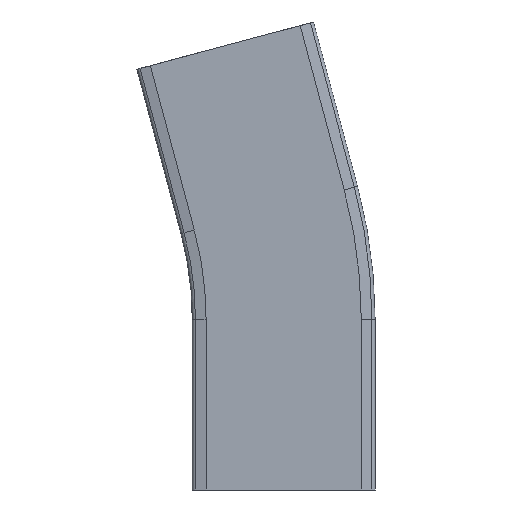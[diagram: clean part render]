
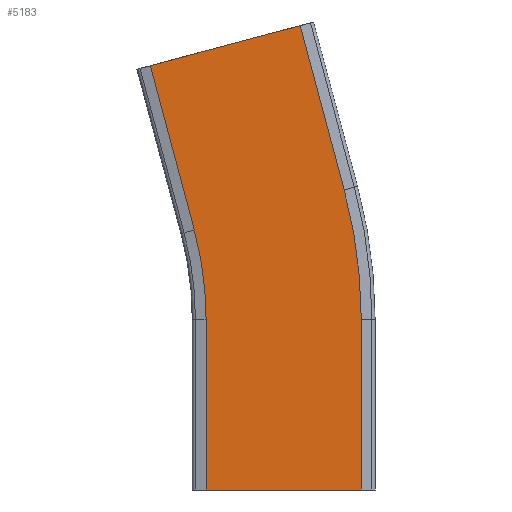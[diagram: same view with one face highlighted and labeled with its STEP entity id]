
A CAD part, front view. The second image highlights one B-rep face of the part: STEP entity #5183.
In plain terms, the highlighted planar face has unit normal (0, -1, 0).
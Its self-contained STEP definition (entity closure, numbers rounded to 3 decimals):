
#4773=CARTESIAN_POINT('',(36.5,-11.,0.0));
#4774=VERTEX_POINT('',#4773);
#4781=CARTESIAN_POINT('',(-36.5,-11.,0.0));
#4782=VERTEX_POINT('',#4781);
#4783=CARTESIAN_POINT('',(-36.5,-11.,0.0));
#4784=DIRECTION('',(1.0,0.0,0.0));
#4785=VECTOR('',#4784,73.);
#4786=LINE('',#4783,#4785);
#4787=EDGE_CURVE('',#4782,#4774,#4786,.T.);
#4813=CARTESIAN_POINT('',(-36.5,-11.,80.0));
#4814=VERTEX_POINT('',#4813);
#4828=CARTESIAN_POINT('',(-36.5,-11.,0.0));
#4829=DIRECTION('',(0.0,0.0,1.0));
#4830=VECTOR('',#4829,80.0);
#4831=LINE('',#4828,#4830);
#4832=EDGE_CURVE('',#4782,#4814,#4831,.T.);
#4842=CARTESIAN_POINT('',(36.5,-11.,80.0));
#4843=VERTEX_POINT('',#4842);
#4852=CARTESIAN_POINT('',(36.5,-11.,0.0));
#4853=DIRECTION('',(0.0,0.0,1.0));
#4854=VECTOR('',#4853,80.0);
#4855=LINE('',#4852,#4854);
#4856=EDGE_CURVE('',#4774,#4843,#4855,.T.);
#4969=CARTESIAN_POINT('',(28.441,-11.,141.211));
#4970=VERTEX_POINT('',#4969);
#4977=CARTESIAN_POINT('',(-200.0,-11.,80.0));
#4978=DIRECTION('',(0.0,-1.0,0.0));
#4979=DIRECTION('',(1.0,0.0,0.0));
#4980=AXIS2_PLACEMENT_3D('',#4977,#4978,#4979);
#4981=CIRCLE('',#4980,236.5);
#4982=EDGE_CURVE('',#4843,#4970,#4981,.T.);
#5036=CARTESIAN_POINT('',(-42.071,-11.,122.317));
#5037=VERTEX_POINT('',#5036);
#5052=CARTESIAN_POINT('',(-200.0,-11.,80.0));
#5053=DIRECTION('',(0.0,-1.0,0.0));
#5054=DIRECTION('',(1.0,0.0,0.0));
#5055=AXIS2_PLACEMENT_3D('',#5052,#5053,#5054);
#5056=CIRCLE('',#5055,163.5);
#5057=EDGE_CURVE('',#4814,#5037,#5056,.T.);
#5067=CARTESIAN_POINT('',(7.736,-11.,218.485));
#5068=VERTEX_POINT('',#5067);
#5075=CARTESIAN_POINT('',(28.441,-11.,141.211));
#5076=DIRECTION('',(-0.259,0.0,0.966));
#5077=VECTOR('',#5076,80.);
#5078=LINE('',#5075,#5077);
#5079=EDGE_CURVE('',#4970,#5068,#5078,.T.);
#5144=CARTESIAN_POINT('',(-62.777,-11.,199.591));
#5145=VERTEX_POINT('',#5144);
#5154=CARTESIAN_POINT('',(-42.071,-11.,122.317));
#5155=DIRECTION('',(-0.259,0.0,0.966));
#5156=VECTOR('',#5155,80.);
#5157=LINE('',#5154,#5156);
#5158=EDGE_CURVE('',#5037,#5145,#5157,.T.);
#5163=CARTESIAN_POINT('',(62.699,-11.,13.361));
#5164=DIRECTION('',(0.0,-1.0,0.0));
#5165=DIRECTION('',(0.259,0.0,-0.966));
#5166=AXIS2_PLACEMENT_3D('',#5163,#5164,#5165);
#5167=PLANE('',#5166);
#5168=CARTESIAN_POINT('',(7.736,-11.,218.485));
#5169=DIRECTION('',(-0.966,0.,-0.259));
#5170=VECTOR('',#5169,73.);
#5171=LINE('',#5168,#5170);
#5172=EDGE_CURVE('',#5068,#5145,#5171,.T.);
#5173=ORIENTED_EDGE('',*,*,#5172,.T.);
#5174=ORIENTED_EDGE('',*,*,#5158,.F.);
#5175=ORIENTED_EDGE('',*,*,#5057,.F.);
#5176=ORIENTED_EDGE('',*,*,#4832,.F.);
#5177=ORIENTED_EDGE('',*,*,#4787,.T.);
#5178=ORIENTED_EDGE('',*,*,#4856,.T.);
#5179=ORIENTED_EDGE('',*,*,#4982,.T.);
#5180=ORIENTED_EDGE('',*,*,#5079,.T.);
#5181=EDGE_LOOP('',(#5173,#5174,#5175,#5176,#5177,#5178,#5179,#5180));
#5182=FACE_OUTER_BOUND('',#5181,.T.);
#5183=ADVANCED_FACE('',(#5182),#5167,.T.);
